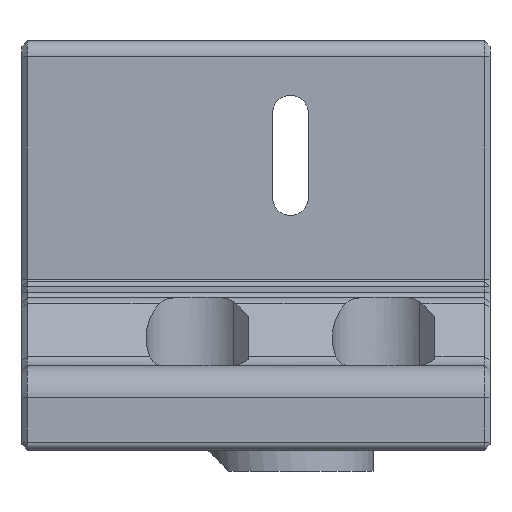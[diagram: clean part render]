
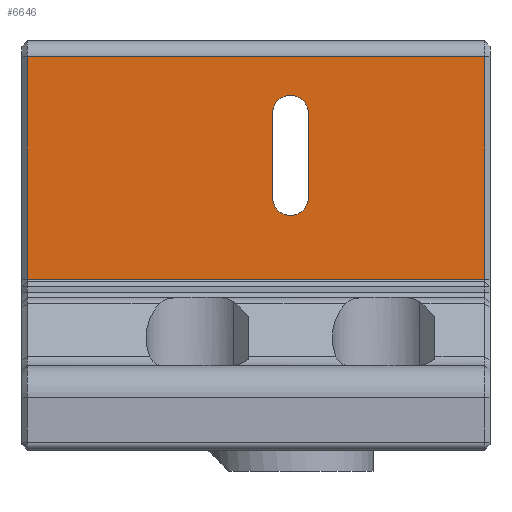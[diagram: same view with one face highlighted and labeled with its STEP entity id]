
A CAD part, front view. The second image highlights one B-rep face of the part: STEP entity #6646.
In plain terms, the highlighted planar face has unit normal (0, -1, 0).
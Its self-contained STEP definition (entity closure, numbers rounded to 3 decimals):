
#1340 = PLANE('',#1341);
#1341 = AXIS2_PLACEMENT_3D('',#1342,#1343,#1344);
#1342 = CARTESIAN_POINT('',(37.4,37.5,32.4));
#1343 = DIRECTION('',(-0.707,0.707,0.
    ));
#1344 = DIRECTION('',(0.,0.,1.));
#1854 = PLANE('',#1855);
#1855 = AXIS2_PLACEMENT_3D('',#1856,#1857,#1858);
#1856 = CARTESIAN_POINT('',(-50.5,37.5,32.4));
#1857 = DIRECTION('',(-0.707,-0.707,0.
    ));
#1858 = DIRECTION('',(0.,0.,1.));
#4057 = VERTEX_POINT('',#4058);
#4058 = CARTESIAN_POINT('',(36.9,37.,74.75));
#4092 = CYLINDRICAL_SURFACE('',#4093,3.);
#4093 = AXIS2_PLACEMENT_3D('',#4094,#4095,#4096);
#4094 = CARTESIAN_POINT('',(-51.,40.,74.75));
#4095 = DIRECTION('',(-1.,0.,0.));
#4096 = DIRECTION('',(-0.,-1.,0.));
#4163 = VERTEX_POINT('',#4164);
#4164 = CARTESIAN_POINT('',(36.9,37.,32.4));
#4183 = EDGE_CURVE('',#4163,#4057,#4184,.T.);
#4184 = SURFACE_CURVE('',#4185,(#4189,#4196),.PCURVE_S1.);
#4185 = LINE('',#4186,#4187);
#4186 = CARTESIAN_POINT('',(36.9,37.,32.4));
#4187 = VECTOR('',#4188,1.);
#4188 = DIRECTION('',(0.,0.,1.));
#4189 = PCURVE('',#1340,#4190);
#4190 = DEFINITIONAL_REPRESENTATION('',(#4191),#4195);
#4191 = LINE('',#4192,#4193);
#4192 = CARTESIAN_POINT('',(0.,-0.707));
#4193 = VECTOR('',#4194,1.);
#4194 = DIRECTION('',(1.,0.));
#4195 = ( GEOMETRIC_REPRESENTATION_CONTEXT(2) 
PARAMETRIC_REPRESENTATION_CONTEXT() REPRESENTATION_CONTEXT('2D SPACE',''
  ) );
#4196 = PCURVE('',#4197,#4202);
#4197 = PLANE('',#4198);
#4198 = AXIS2_PLACEMENT_3D('',#4199,#4200,#4201);
#4199 = CARTESIAN_POINT('',(-51.,37.,32.4));
#4200 = DIRECTION('',(0.,-1.,0.));
#4201 = DIRECTION('',(0.,0.,1.));
#4202 = DEFINITIONAL_REPRESENTATION('',(#4203),#4207);
#4203 = LINE('',#4204,#4205);
#4204 = CARTESIAN_POINT('',(0.,-87.9));
#4205 = VECTOR('',#4206,1.);
#4206 = DIRECTION('',(1.,0.));
#4207 = ( GEOMETRIC_REPRESENTATION_CONTEXT(2) 
PARAMETRIC_REPRESENTATION_CONTEXT() REPRESENTATION_CONTEXT('2D SPACE',''
  ) );
#4307 = CYLINDRICAL_SURFACE('',#4308,0.4);
#4308 = AXIS2_PLACEMENT_3D('',#4309,#4310,#4311);
#4309 = CARTESIAN_POINT('',(-51.,36.6,32.4));
#4310 = DIRECTION('',(-1.,-0.,-0.));
#4311 = DIRECTION('',(0.,0.,-1.));
#4759 = VERTEX_POINT('',#4760);
#4760 = CARTESIAN_POINT('',(-50.,37.,74.75));
#4855 = VERTEX_POINT('',#4856);
#4856 = CARTESIAN_POINT('',(-50.,37.,32.4));
#4875 = EDGE_CURVE('',#4855,#4759,#4876,.T.);
#4876 = SURFACE_CURVE('',#4877,(#4881,#4888),.PCURVE_S1.);
#4877 = LINE('',#4878,#4879);
#4878 = CARTESIAN_POINT('',(-50.,37.,32.4));
#4879 = VECTOR('',#4880,1.);
#4880 = DIRECTION('',(0.,0.,1.));
#4881 = PCURVE('',#1854,#4882);
#4882 = DEFINITIONAL_REPRESENTATION('',(#4883),#4887);
#4883 = LINE('',#4884,#4885);
#4884 = CARTESIAN_POINT('',(0.,-0.707));
#4885 = VECTOR('',#4886,1.);
#4886 = DIRECTION('',(1.,0.));
#4887 = ( GEOMETRIC_REPRESENTATION_CONTEXT(2) 
PARAMETRIC_REPRESENTATION_CONTEXT() REPRESENTATION_CONTEXT('2D SPACE',''
  ) );
#4888 = PCURVE('',#4197,#4889);
#4889 = DEFINITIONAL_REPRESENTATION('',(#4890),#4894);
#4890 = LINE('',#4891,#4892);
#4891 = CARTESIAN_POINT('',(0.,-1.));
#4892 = VECTOR('',#4893,1.);
#4893 = DIRECTION('',(1.,0.));
#4894 = ( GEOMETRIC_REPRESENTATION_CONTEXT(2) 
PARAMETRIC_REPRESENTATION_CONTEXT() REPRESENTATION_CONTEXT('2D SPACE',''
  ) );
#6596 = EDGE_CURVE('',#4759,#4057,#6597,.T.);
#6597 = SURFACE_CURVE('',#6598,(#6602,#6609),.PCURVE_S1.);
#6598 = LINE('',#6599,#6600);
#6599 = CARTESIAN_POINT('',(-51.,37.,74.75));
#6600 = VECTOR('',#6601,1.);
#6601 = DIRECTION('',(1.,0.,0.));
#6602 = PCURVE('',#4092,#6603);
#6603 = DEFINITIONAL_REPRESENTATION('',(#6604),#6608);
#6604 = LINE('',#6605,#6606);
#6605 = CARTESIAN_POINT('',(0.,0.));
#6606 = VECTOR('',#6607,1.);
#6607 = DIRECTION('',(0.,-1.));
#6608 = ( GEOMETRIC_REPRESENTATION_CONTEXT(2) 
PARAMETRIC_REPRESENTATION_CONTEXT() REPRESENTATION_CONTEXT('2D SPACE',''
  ) );
#6609 = PCURVE('',#4197,#6610);
#6610 = DEFINITIONAL_REPRESENTATION('',(#6611),#6615);
#6611 = LINE('',#6612,#6613);
#6612 = CARTESIAN_POINT('',(42.35,0.));
#6613 = VECTOR('',#6614,1.);
#6614 = DIRECTION('',(0.,-1.));
#6615 = ( GEOMETRIC_REPRESENTATION_CONTEXT(2) 
PARAMETRIC_REPRESENTATION_CONTEXT() REPRESENTATION_CONTEXT('2D SPACE',''
  ) );
#6646 = ADVANCED_FACE('',(#6647,#6673),#4197,.T.);
#6647 = FACE_BOUND('',#6648,.T.);
#6648 = EDGE_LOOP('',(#6649,#6670,#6671,#6672));
#6649 = ORIENTED_EDGE('',*,*,#6650,.T.);
#6650 = EDGE_CURVE('',#4855,#4163,#6651,.T.);
#6651 = SURFACE_CURVE('',#6652,(#6656,#6663),.PCURVE_S1.);
#6652 = LINE('',#6653,#6654);
#6653 = CARTESIAN_POINT('',(-51.,37.,32.4));
#6654 = VECTOR('',#6655,1.);
#6655 = DIRECTION('',(1.,0.,0.));
#6656 = PCURVE('',#4197,#6657);
#6657 = DEFINITIONAL_REPRESENTATION('',(#6658),#6662);
#6658 = LINE('',#6659,#6660);
#6659 = CARTESIAN_POINT('',(0.,0.));
#6660 = VECTOR('',#6661,1.);
#6661 = DIRECTION('',(0.,-1.));
#6662 = ( GEOMETRIC_REPRESENTATION_CONTEXT(2) 
PARAMETRIC_REPRESENTATION_CONTEXT() REPRESENTATION_CONTEXT('2D SPACE',''
  ) );
#6663 = PCURVE('',#4307,#6664);
#6664 = DEFINITIONAL_REPRESENTATION('',(#6665),#6669);
#6665 = LINE('',#6666,#6667);
#6666 = CARTESIAN_POINT('',(-1.571,0.));
#6667 = VECTOR('',#6668,1.);
#6668 = DIRECTION('',(-0.,-1.));
#6669 = ( GEOMETRIC_REPRESENTATION_CONTEXT(2) 
PARAMETRIC_REPRESENTATION_CONTEXT() REPRESENTATION_CONTEXT('2D SPACE',''
  ) );
#6670 = ORIENTED_EDGE('',*,*,#4183,.T.);
#6671 = ORIENTED_EDGE('',*,*,#6596,.F.);
#6672 = ORIENTED_EDGE('',*,*,#4875,.F.);
#6673 = FACE_BOUND('',#6674,.T.);
#6674 = EDGE_LOOP('',(#6675,#6703,#6732,#6758));
#6675 = ORIENTED_EDGE('',*,*,#6676,.F.);
#6676 = EDGE_CURVE('',#6677,#6679,#6681,.T.);
#6677 = VERTEX_POINT('',#6678);
#6678 = CARTESIAN_POINT('',(-3.4,37.,64.));
#6679 = VERTEX_POINT('',#6680);
#6680 = CARTESIAN_POINT('',(-3.4,37.,48.));
#6681 = SURFACE_CURVE('',#6682,(#6686,#6692),.PCURVE_S1.);
#6682 = LINE('',#6683,#6684);
#6683 = CARTESIAN_POINT('',(-3.4,37.,48.2));
#6684 = VECTOR('',#6685,1.);
#6685 = DIRECTION('',(0.,0.,-1.));
#6686 = PCURVE('',#4197,#6687);
#6687 = DEFINITIONAL_REPRESENTATION('',(#6688),#6691);
#6688 = B_SPLINE_CURVE_WITH_KNOTS('',1,(#6689,#6690),.UNSPECIFIED.,.F.,
  .F.,(2,2),(-15.8,0.2),.PIECEWISE_BEZIER_KNOTS.);
#6689 = CARTESIAN_POINT('',(31.6,-47.6));
#6690 = CARTESIAN_POINT('',(15.6,-47.6));
#6691 = ( GEOMETRIC_REPRESENTATION_CONTEXT(2) 
PARAMETRIC_REPRESENTATION_CONTEXT() REPRESENTATION_CONTEXT('2D SPACE',''
  ) );
#6692 = PCURVE('',#6693,#6698);
#6693 = PLANE('',#6694);
#6694 = AXIS2_PLACEMENT_3D('',#6695,#6696,#6697);
#6695 = CARTESIAN_POINT('',(-3.4,36.,64.));
#6696 = DIRECTION('',(-1.,0.,0.));
#6697 = DIRECTION('',(0.,0.,-1.));
#6698 = DEFINITIONAL_REPRESENTATION('',(#6699),#6702);
#6699 = B_SPLINE_CURVE_WITH_KNOTS('',1,(#6700,#6701),.UNSPECIFIED.,.F.,
  .F.,(2,2),(-15.8,0.2),.PIECEWISE_BEZIER_KNOTS.);
#6700 = CARTESIAN_POINT('',(0.,-1.));
#6701 = CARTESIAN_POINT('',(16.,-1.));
#6702 = ( GEOMETRIC_REPRESENTATION_CONTEXT(2) 
PARAMETRIC_REPRESENTATION_CONTEXT() REPRESENTATION_CONTEXT('2D SPACE',''
  ) );
#6703 = ORIENTED_EDGE('',*,*,#6704,.F.);
#6704 = EDGE_CURVE('',#6705,#6677,#6707,.T.);
#6705 = VERTEX_POINT('',#6706);
#6706 = CARTESIAN_POINT('',(3.4,37.,64.));
#6707 = SURFACE_CURVE('',#6708,(#6713,#6720),.PCURVE_S1.);
#6708 = CIRCLE('',#6709,3.4);
#6709 = AXIS2_PLACEMENT_3D('',#6710,#6711,#6712);
#6710 = CARTESIAN_POINT('',(0.,37.,64.));
#6711 = DIRECTION('',(0.,-1.,0.));
#6712 = DIRECTION('',(1.,0.,0.));
#6713 = PCURVE('',#4197,#6714);
#6714 = DEFINITIONAL_REPRESENTATION('',(#6715),#6719);
#6715 = CIRCLE('',#6716,3.4);
#6716 = AXIS2_PLACEMENT_2D('',#6717,#6718);
#6717 = CARTESIAN_POINT('',(31.6,-51.));
#6718 = DIRECTION('',(0.,-1.));
#6719 = ( GEOMETRIC_REPRESENTATION_CONTEXT(2) 
PARAMETRIC_REPRESENTATION_CONTEXT() REPRESENTATION_CONTEXT('2D SPACE',''
  ) );
#6720 = PCURVE('',#6721,#6726);
#6721 = CYLINDRICAL_SURFACE('',#6722,3.4);
#6722 = AXIS2_PLACEMENT_3D('',#6723,#6724,#6725);
#6723 = CARTESIAN_POINT('',(0.,36.,64.));
#6724 = DIRECTION('',(0.,-1.,0.));
#6725 = DIRECTION('',(1.,0.,0.));
#6726 = DEFINITIONAL_REPRESENTATION('',(#6727),#6731);
#6727 = LINE('',#6728,#6729);
#6728 = CARTESIAN_POINT('',(0.,-1.));
#6729 = VECTOR('',#6730,1.);
#6730 = DIRECTION('',(1.,0.));
#6731 = ( GEOMETRIC_REPRESENTATION_CONTEXT(2) 
PARAMETRIC_REPRESENTATION_CONTEXT() REPRESENTATION_CONTEXT('2D SPACE',''
  ) );
#6732 = ORIENTED_EDGE('',*,*,#6733,.F.);
#6733 = EDGE_CURVE('',#6734,#6705,#6736,.T.);
#6734 = VERTEX_POINT('',#6735);
#6735 = CARTESIAN_POINT('',(3.4,37.,48.));
#6736 = SURFACE_CURVE('',#6737,(#6741,#6747),.PCURVE_S1.);
#6737 = LINE('',#6738,#6739);
#6738 = CARTESIAN_POINT('',(3.4,37.,40.2));
#6739 = VECTOR('',#6740,1.);
#6740 = DIRECTION('',(0.,0.,1.));
#6741 = PCURVE('',#4197,#6742);
#6742 = DEFINITIONAL_REPRESENTATION('',(#6743),#6746);
#6743 = B_SPLINE_CURVE_WITH_KNOTS('',1,(#6744,#6745),.UNSPECIFIED.,.F.,
  .F.,(2,2),(7.8,23.8),.PIECEWISE_BEZIER_KNOTS.);
#6744 = CARTESIAN_POINT('',(15.6,-54.4));
#6745 = CARTESIAN_POINT('',(31.6,-54.4));
#6746 = ( GEOMETRIC_REPRESENTATION_CONTEXT(2) 
PARAMETRIC_REPRESENTATION_CONTEXT() REPRESENTATION_CONTEXT('2D SPACE',''
  ) );
#6747 = PCURVE('',#6748,#6753);
#6748 = PLANE('',#6749);
#6749 = AXIS2_PLACEMENT_3D('',#6750,#6751,#6752);
#6750 = CARTESIAN_POINT('',(3.4,36.,48.));
#6751 = DIRECTION('',(1.,-0.,0.));
#6752 = DIRECTION('',(0.,0.,1.));
#6753 = DEFINITIONAL_REPRESENTATION('',(#6754),#6757);
#6754 = B_SPLINE_CURVE_WITH_KNOTS('',1,(#6755,#6756),.UNSPECIFIED.,.F.,
  .F.,(2,2),(7.8,23.8),.PIECEWISE_BEZIER_KNOTS.);
#6755 = CARTESIAN_POINT('',(0.,-1.));
#6756 = CARTESIAN_POINT('',(16.,-1.));
#6757 = ( GEOMETRIC_REPRESENTATION_CONTEXT(2) 
PARAMETRIC_REPRESENTATION_CONTEXT() REPRESENTATION_CONTEXT('2D SPACE',''
  ) );
#6758 = ORIENTED_EDGE('',*,*,#6759,.F.);
#6759 = EDGE_CURVE('',#6679,#6734,#6760,.T.);
#6760 = SURFACE_CURVE('',#6761,(#6766,#6773),.PCURVE_S1.);
#6761 = CIRCLE('',#6762,3.4);
#6762 = AXIS2_PLACEMENT_3D('',#6763,#6764,#6765);
#6763 = CARTESIAN_POINT('',(0.,37.,48.));
#6764 = DIRECTION('',(0.,-1.,-0.));
#6765 = DIRECTION('',(-1.,0.,0.));
#6766 = PCURVE('',#4197,#6767);
#6767 = DEFINITIONAL_REPRESENTATION('',(#6768),#6772);
#6768 = CIRCLE('',#6769,3.4);
#6769 = AXIS2_PLACEMENT_2D('',#6770,#6771);
#6770 = CARTESIAN_POINT('',(15.6,-51.));
#6771 = DIRECTION('',(0.,1.));
#6772 = ( GEOMETRIC_REPRESENTATION_CONTEXT(2) 
PARAMETRIC_REPRESENTATION_CONTEXT() REPRESENTATION_CONTEXT('2D SPACE',''
  ) );
#6773 = PCURVE('',#6774,#6779);
#6774 = CYLINDRICAL_SURFACE('',#6775,3.4);
#6775 = AXIS2_PLACEMENT_3D('',#6776,#6777,#6778);
#6776 = CARTESIAN_POINT('',(0.,36.,48.));
#6777 = DIRECTION('',(0.,-1.,-0.));
#6778 = DIRECTION('',(-1.,0.,0.));
#6779 = DEFINITIONAL_REPRESENTATION('',(#6780),#6784);
#6780 = LINE('',#6781,#6782);
#6781 = CARTESIAN_POINT('',(0.,-1.));
#6782 = VECTOR('',#6783,1.);
#6783 = DIRECTION('',(1.,0.));
#6784 = ( GEOMETRIC_REPRESENTATION_CONTEXT(2) 
PARAMETRIC_REPRESENTATION_CONTEXT() REPRESENTATION_CONTEXT('2D SPACE',''
  ) );
